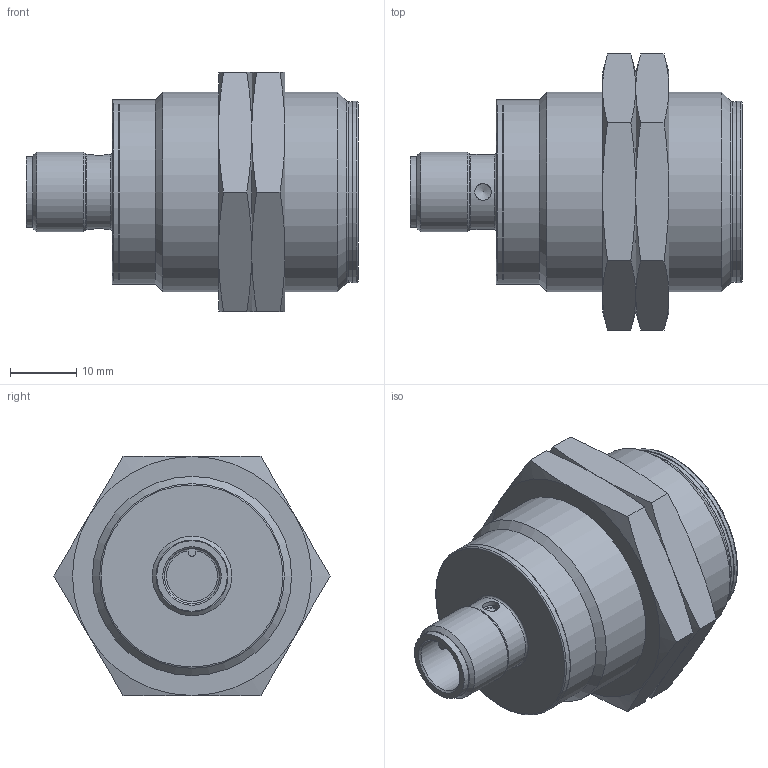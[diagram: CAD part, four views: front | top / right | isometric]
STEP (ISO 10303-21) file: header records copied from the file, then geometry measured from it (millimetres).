
FILE_DESCRIPTION( ( 'STEP AP203' ), ' ' );
FILE_NAME( 'p:/temp/worker_803/3060_984/app_40_02016102712260424520338192d056f_000000_00_00_000000/format_2/ANT430.stp', '2016-10-27T10:26:16', ( '' ), ( '' ), ' ', 'PARTsolutions', ' ' );
FILE_SCHEMA( ( 'CONFIG_CONTROL_DESIGN' ) );
Length unit declared in the file: millimetre
Products named in the file (3): ANT430; _ANT430_p1; _SW36-L5-M30x1.5_430p2
Assembly tree (3 placements, depth 2):
  ANT430
    _ANT430_p1
    _SW36-L5-M30x1.5_430p2  x2
Bounding box: 50 x 41.57 x 36 mm (x, y, z)
Volume: 30715 mm3; surface area: 10218 mm2
Topology: 3 solids, 3 shells, 94 faces, 200 edges, 117 vertices
Faces by surface type: cone 36, plane 33, cylinder 18, torus 7
Full cylindrical faces by diameter (mm): 2.5 x4, 8.3 x1, 9.9 x1, 10 x1, 10.6 x1, 11.3 x1, 12 x1, 27.2 x1, 27.3 x1, 27.8 x2, 28.376 x2, 30 x1
Entity records: 2040 total; most frequent: CARTESIAN_POINT 589, DIRECTION 286, ORIENTED_EDGE 218, AXIS2_PLACEMENT_3D 133, EDGE_LOOP 117, EDGE_CURVE 109, FACE_OUTER_BOUND 93, VERTEX_POINT 84
